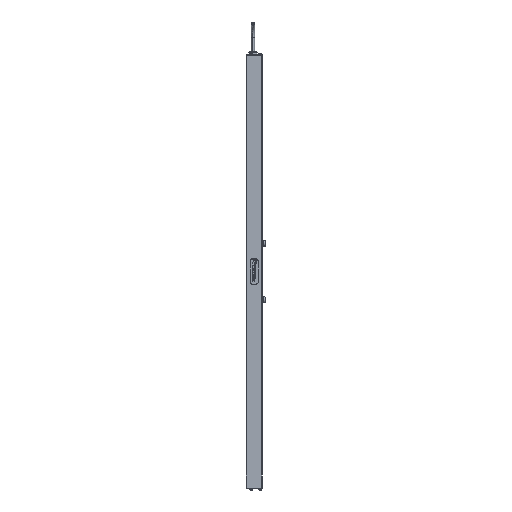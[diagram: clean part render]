
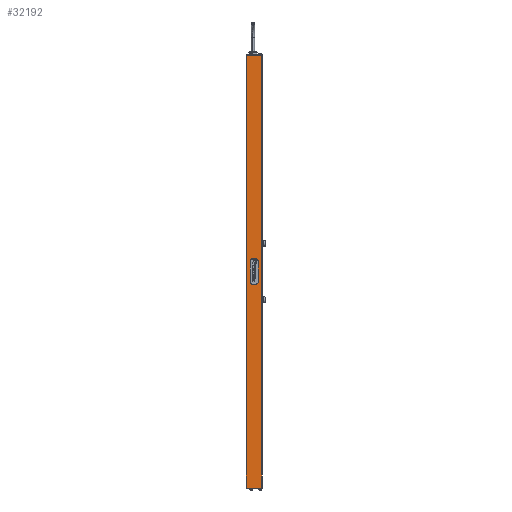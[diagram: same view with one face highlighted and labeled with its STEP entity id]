
A CAD part, left-side view. The second image highlights one B-rep face of the part: STEP entity #32192.
In plain terms, the highlighted planar face has unit normal (-1, 0, 0).
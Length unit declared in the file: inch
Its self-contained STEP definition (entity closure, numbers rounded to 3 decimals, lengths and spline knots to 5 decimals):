
#2299 = CARTESIAN_POINT ( 'NONE',  ( -0.665, 0.015, -15.36 ) ) ;
#2392 = LINE ( 'NONE', #23710, #26872 ) ;
#3798 = FACE_OUTER_BOUND ( 'NONE', #11080, .T. ) ;
#3923 = VERTEX_POINT ( 'NONE', #24131 ) ;
#3940 = VECTOR ( 'NONE', #20736, 39.37008 ) ;
#4174 = CARTESIAN_POINT ( 'NONE',  ( -0.665, 0., -15.36 ) ) ;
#4283 = DIRECTION ( 'NONE',  ( 0., -1., 0. ) ) ;
#5463 = ORIENTED_EDGE ( 'NONE', *, *, #8560, .T. ) ;
#5843 = EDGE_CURVE ( 'NONE', #3923, #10291, #20116, .T. ) ;
#6212 = DIRECTION ( 'NONE',  ( 0., -1., 0. ) ) ;
#7852 = EDGE_CURVE ( 'NONE', #10291, #15240, #12384, .T. ) ;
#8560 = EDGE_CURVE ( 'NONE', #15240, #10574, #2392, .T. ) ;
#10165 = EDGE_CURVE ( 'NONE', #3923, #10574, #17197, .T. ) ;
#10291 = VERTEX_POINT ( 'NONE', #25603 ) ;
#10574 = VERTEX_POINT ( 'NONE', #26483 ) ;
#11080 = EDGE_LOOP ( 'NONE', ( #26537, #11165, #14767, #5463 ) ) ;
#11165 = ORIENTED_EDGE ( 'NONE', *, *, #5843, .T. ) ;
#11763 = VECTOR ( 'NONE', #6212, 39.37008 ) ;
#12384 = LINE ( 'NONE', #4174, #30863 ) ;
#13944 = DIRECTION ( 'NONE',  ( 0., 0., 1. ) ) ;
#14767 = ORIENTED_EDGE ( 'NONE', *, *, #7852, .T. ) ;
#14887 = CARTESIAN_POINT ( 'NONE',  ( -0.665, 0., 15.36 ) ) ;
#15240 = VERTEX_POINT ( 'NONE', #2299 ) ;
#17197 = LINE ( 'NONE', #18997, #11763 ) ;
#17416 = PLANE ( 'NONE',  #19503 ) ;
#18997 = CARTESIAN_POINT ( 'NONE',  ( -0.665, 0., 15.36 ) ) ;
#19503 = AXIS2_PLACEMENT_3D ( 'NONE', #14887, #19740, #22361 ) ;
#19740 = DIRECTION ( 'NONE',  ( 1., 0., 0. ) ) ;
#20116 = LINE ( 'NONE', #20422, #3940 ) ;
#20422 = CARTESIAN_POINT ( 'NONE',  ( -0.665, 1.105, 15.36 ) ) ;
#20736 = DIRECTION ( 'NONE',  ( 0., 0., -1. ) ) ;
#22361 = DIRECTION ( 'NONE',  ( 0., 0., -1. ) ) ;
#23710 = CARTESIAN_POINT ( 'NONE',  ( -0.665, 0.015, 15.36 ) ) ;
#24131 = CARTESIAN_POINT ( 'NONE',  ( -0.665, 1.105, 15.36 ) ) ;
#25603 = CARTESIAN_POINT ( 'NONE',  ( -0.665, 1.105, -15.36 ) ) ;
#26483 = CARTESIAN_POINT ( 'NONE',  ( -0.665, 0.015, 15.36 ) ) ;
#26537 = ORIENTED_EDGE ( 'NONE', *, *, #10165, .F. ) ;
#26872 = VECTOR ( 'NONE', #13944, 39.37008 ) ;
#30863 = VECTOR ( 'NONE', #4283, 39.37008 ) ;
#32192 = ADVANCED_FACE ( 'NONE', ( #3798 ), #17416, .F. ) ;
